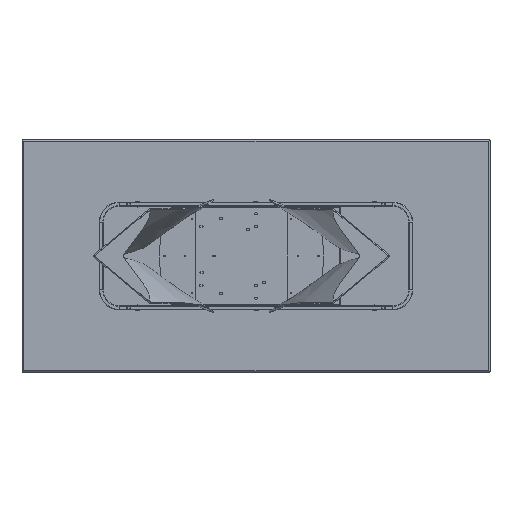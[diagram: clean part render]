
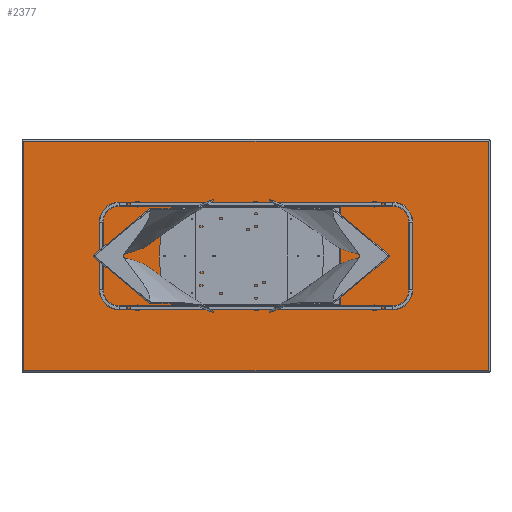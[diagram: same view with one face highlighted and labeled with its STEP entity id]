
A CAD part, front view. The second image highlights one B-rep face of the part: STEP entity #2377.
In plain terms, the highlighted planar face has unit normal (0, -1, 0).
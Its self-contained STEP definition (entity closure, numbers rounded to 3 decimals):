
#651 = ORIENTED_EDGE ( 'NONE', *, *, #11629, .T. ) ;
#790 = CARTESIAN_POINT ( 'NONE',  ( 1187., 0., 0. ) ) ;
#1327 = PLANE ( 'NONE',  #20332 ) ;
#2377 = ADVANCED_FACE ( 'NONE', ( #10147 ), #1327, .F. ) ;
#4149 = CARTESIAN_POINT ( 'NONE',  ( 0., 0., 0. ) ) ;
#4337 = ORIENTED_EDGE ( 'NONE', *, *, #11735, .T. ) ;
#5432 = LINE ( 'NONE', #16003, #11384 ) ;
#6153 = CARTESIAN_POINT ( 'NONE',  ( -1187., 0., 587. ) ) ;
#6196 = VECTOR ( 'NONE', #7858, 1000. ) ;
#7295 = DIRECTION ( 'NONE',  ( 0., 0., -1. ) ) ;
#7315 = VERTEX_POINT ( 'NONE', #13219 ) ;
#7858 = DIRECTION ( 'NONE',  ( 0., 0., 1. ) ) ;
#10147 = FACE_OUTER_BOUND ( 'NONE', #17534, .T. ) ;
#10368 = LINE ( 'NONE', #21562, #17410 ) ;
#10955 = CARTESIAN_POINT ( 'NONE',  ( 1187., 0., 587. ) ) ;
#11211 = ORIENTED_EDGE ( 'NONE', *, *, #15165, .T. ) ;
#11384 = VECTOR ( 'NONE', #7295, 1000. ) ;
#11629 = EDGE_CURVE ( 'NONE', #19518, #7315, #5432, .T. ) ;
#11735 = EDGE_CURVE ( 'NONE', #20978, #13061, #14608, .T. ) ;
#12592 = ORIENTED_EDGE ( 'NONE', *, *, #21121, .T. ) ;
#12768 = DIRECTION ( 'NONE',  ( 1., 0., 0. ) ) ;
#13061 = VERTEX_POINT ( 'NONE', #10955 ) ;
#13219 = CARTESIAN_POINT ( 'NONE',  ( -1187., 0., -587. ) ) ;
#13614 = DIRECTION ( 'NONE',  ( -1., 0., 0. ) ) ;
#14604 = DIRECTION ( 'NONE',  ( 0., 0., 1. ) ) ;
#14608 = LINE ( 'NONE', #790, #6196 ) ;
#14792 = CARTESIAN_POINT ( 'NONE',  ( 1187., 0., -587. ) ) ;
#15165 = EDGE_CURVE ( 'NONE', #7315, #20978, #10368, .T. ) ;
#16003 = CARTESIAN_POINT ( 'NONE',  ( -1187., 0., 0. ) ) ;
#16744 = LINE ( 'NONE', #22310, #18922 ) ;
#17221 = DIRECTION ( 'NONE',  ( 0., 1., 0. ) ) ;
#17410 = VECTOR ( 'NONE', #12768, 1000. ) ;
#17534 = EDGE_LOOP ( 'NONE', ( #4337, #12592, #651, #11211 ) ) ;
#18922 = VECTOR ( 'NONE', #13614, 1000. ) ;
#19518 = VERTEX_POINT ( 'NONE', #6153 ) ;
#20332 = AXIS2_PLACEMENT_3D ( 'NONE', #4149, #17221, #14604 ) ;
#20978 = VERTEX_POINT ( 'NONE', #14792 ) ;
#21121 = EDGE_CURVE ( 'NONE', #13061, #19518, #16744, .T. ) ;
#21562 = CARTESIAN_POINT ( 'NONE',  ( 0., 0., -587. ) ) ;
#22310 = CARTESIAN_POINT ( 'NONE',  ( 0., 0., 587. ) ) ;
